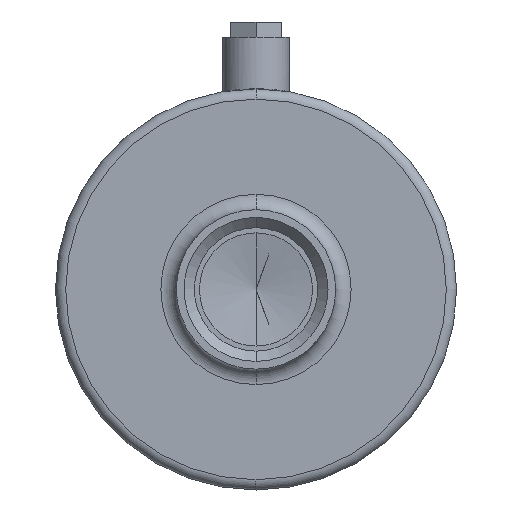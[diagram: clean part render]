
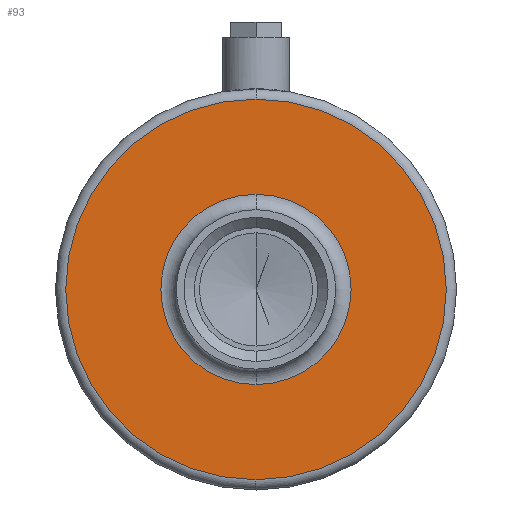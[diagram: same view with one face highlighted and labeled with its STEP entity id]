
A CAD part, front view. The second image highlights one B-rep face of the part: STEP entity #93.
In plain terms, the highlighted planar face has unit normal (0, -1, 0).
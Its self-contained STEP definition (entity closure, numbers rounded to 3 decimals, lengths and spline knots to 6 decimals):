
#93=ADVANCED_FACE('263:506',(#194,#195),#196,.T.);
#194=FACE_OUTER_BOUND('',#308,.T.);
#195=FACE_BOUND('',#309,.T.);
#196=PLANE('',#310);
#308=EDGE_LOOP('',(#635,#636));
#309=EDGE_LOOP('',(#637,#638));
#310=AXIS2_PLACEMENT_3D('',#639,#640,#641);
#635=ORIENTED_EDGE('',*,*,#759,.T.);
#636=ORIENTED_EDGE('',*,*,#784,.T.);
#637=ORIENTED_EDGE('',*,*,#789,.T.);
#638=ORIENTED_EDGE('',*,*,#752,.T.);
#639=CARTESIAN_POINT('',(-0.039,0.003013,0.0));
#640=DIRECTION('',(0.0,-1.0,0.0));
#641=DIRECTION('',(0.0,0.0,-1.0));
#752=EDGE_CURVE('263:575',#902,#900,#903,.T.);
#759=EDGE_CURVE('263:563',#910,#912,#914,.T.);
#784=EDGE_CURVE('263:563',#912,#910,#951,.T.);
#789=EDGE_CURVE('263:575',#900,#902,#956,.T.);
#900=VERTEX_POINT('NONE',#1163);
#902=VERTEX_POINT('',#1165);
#903=CIRCLE('',#1166,0.0185);
#910=VERTEX_POINT('NONE',#1173);
#912=VERTEX_POINT('',#1175);
#914=CIRCLE('',#1177,0.037);
#951=CIRCLE('',#1281,0.037);
#956=CIRCLE('',#1286,0.0185);
#1163=CARTESIAN_POINT('',(0.0,0.003013,-0.0185));
#1165=CARTESIAN_POINT('',(0.,0.003013,0.0185));
#1166=AXIS2_PLACEMENT_3D('',#1443,#1444,#1445);
#1173=CARTESIAN_POINT('',(0.0,0.003013,-0.037));
#1175=CARTESIAN_POINT('',(0.,0.003013,0.037));
#1177=AXIS2_PLACEMENT_3D('',#1464,#1465,#1466);
#1281=AXIS2_PLACEMENT_3D('',#1513,#1514,#1515);
#1286=AXIS2_PLACEMENT_3D('',#1528,#1529,#1530);
#1443=CARTESIAN_POINT('',(0.0,0.003013,0.0));
#1444=DIRECTION('',(0.0,1.0,0.0));
#1445=DIRECTION('',(0.0,0.0,-1.0));
#1464=CARTESIAN_POINT('',(0.0,0.003013,0.0));
#1465=DIRECTION('',(0.0,-1.0,0.0));
#1466=DIRECTION('',(0.0,0.0,-1.0));
#1513=CARTESIAN_POINT('',(0.0,0.003013,0.0));
#1514=DIRECTION('',(0.0,-1.0,0.0));
#1515=DIRECTION('',(0.0,0.0,-1.0));
#1528=CARTESIAN_POINT('',(0.0,0.003013,0.0));
#1529=DIRECTION('',(0.0,1.0,0.0));
#1530=DIRECTION('',(0.0,0.0,-1.0));
